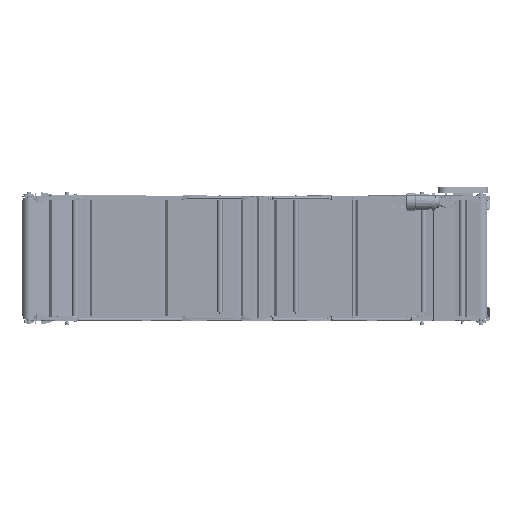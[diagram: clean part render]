
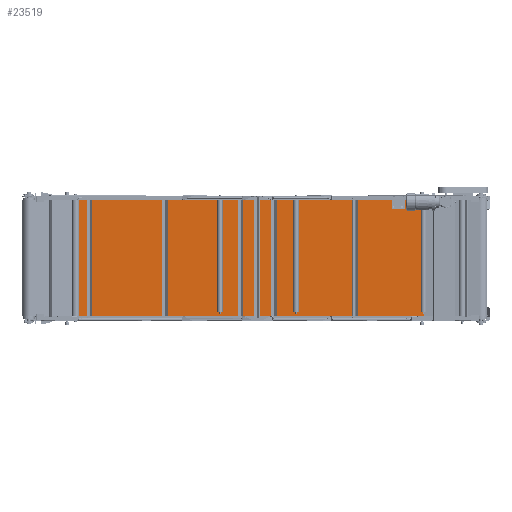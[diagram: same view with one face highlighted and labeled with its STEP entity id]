
A CAD part, front view. The second image highlights one B-rep face of the part: STEP entity #23519.
In plain terms, the highlighted planar face has unit normal (-0.002, -1, 0).
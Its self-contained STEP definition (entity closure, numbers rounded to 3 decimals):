
#23519=ADVANCED_FACE('',(#34397),#28546,.F.);
#28546=PLANE('',#147531);
#34397=FACE_OUTER_BOUND('',#42538,.T.);
#42538=EDGE_LOOP('',(#71188,#71189,#71190,#71191));
#71188=ORIENTED_EDGE('',*,*,#109329,.T.);
#71189=ORIENTED_EDGE('',*,*,#109330,.F.);
#71190=ORIENTED_EDGE('',*,*,#109331,.F.);
#71191=ORIENTED_EDGE('',*,*,#109327,.T.);
#92338=VERTEX_POINT('',#273617);
#92339=VERTEX_POINT('',#273619);
#92340=VERTEX_POINT('',#273623);
#92341=VERTEX_POINT('',#273625);
#109327=EDGE_CURVE('',#92339,#92338,#123933,.T.);
#109329=EDGE_CURVE('',#92338,#92340,#123934,.T.);
#109330=EDGE_CURVE('',#92341,#92340,#123935,.T.);
#109331=EDGE_CURVE('',#92339,#92341,#123936,.T.);
#123933=LINE('',#273618,#135903);
#123934=LINE('',#273622,#135904);
#123935=LINE('',#273624,#135905);
#123936=LINE('',#273626,#135906);
#135903=VECTOR('',#174159,1.);
#135904=VECTOR('',#174164,1.);
#135905=VECTOR('',#174165,1.);
#135906=VECTOR('',#174166,1.);
#147531=AXIS2_PLACEMENT_3D('',#273627,#174167,#174168);
#174159=DIRECTION('',(0.,0.,-1.));
#174164=DIRECTION('',(1.,-0.002,0.));
#174165=DIRECTION('',(0.,0.,-1.));
#174166=DIRECTION('',(1.,-0.002,0.));
#174167=DIRECTION('',(0.002,1.,0.));
#174168=DIRECTION('',(1.,-0.002,0.));
#273617=CARTESIAN_POINT('',(-98.218,12.69,-21.));
#273618=CARTESIAN_POINT('',(-98.218,12.69,21.));
#273619=CARTESIAN_POINT('',(-98.218,12.69,21.));
#273622=CARTESIAN_POINT('',(-98.218,12.69,-21.));
#273623=CARTESIAN_POINT('',(27.461,12.459,-21.));
#273624=CARTESIAN_POINT('',(27.461,12.459,21.));
#273625=CARTESIAN_POINT('',(27.461,12.459,21.));
#273626=CARTESIAN_POINT('',(-98.218,12.69,21.));
#273627=CARTESIAN_POINT('',(-98.218,12.69,21.));
